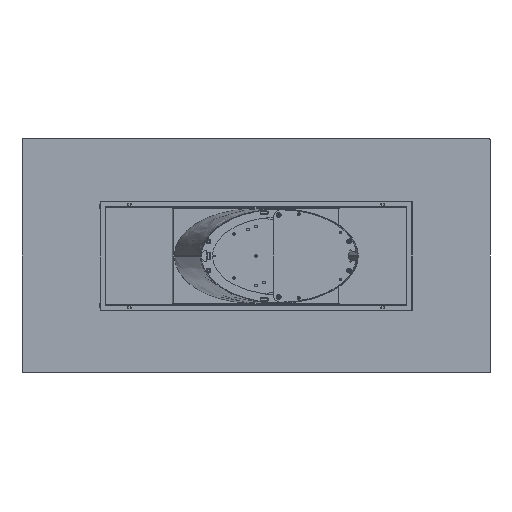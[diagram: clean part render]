
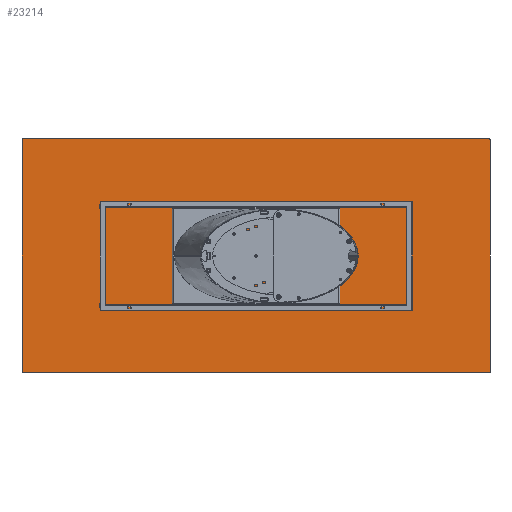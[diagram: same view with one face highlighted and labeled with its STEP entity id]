
A CAD part, front view. The second image highlights one B-rep face of the part: STEP entity #23214.
In plain terms, the highlighted planar face has unit normal (0, -1, 0).
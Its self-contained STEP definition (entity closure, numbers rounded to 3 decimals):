
#1226 = CIRCLE ( 'NONE', #3363, 5. ) ;
#1639 = VECTOR ( 'NONE', #15831, 1000. ) ;
#1807 = CARTESIAN_POINT ( 'NONE',  ( -1200., 0., -600. ) ) ;
#2964 = CARTESIAN_POINT ( 'NONE',  ( 1195., 0., -600. ) ) ;
#3357 = DIRECTION ( 'NONE',  ( 0., 0., 1. ) ) ;
#3363 = AXIS2_PLACEMENT_3D ( 'NONE', #26076, #15602, #3357 ) ;
#3834 = LINE ( 'NONE', #1807, #14030 ) ;
#4764 = AXIS2_PLACEMENT_3D ( 'NONE', #6789, #18618, #12461 ) ;
#5243 = EDGE_CURVE ( 'NONE', #12475, #10840, #1226, .T. ) ;
#5338 = EDGE_CURVE ( 'NONE', #7942, #24213, #19863, .T. ) ;
#5797 = CARTESIAN_POINT ( 'NONE',  ( -1200., 0., 595. ) ) ;
#6281 = CIRCLE ( 'NONE', #15315, 5. ) ;
#6320 = DIRECTION ( 'NONE',  ( 0., -1., 0. ) ) ;
#6489 = VERTEX_POINT ( 'NONE', #5797 ) ;
#6551 = DIRECTION ( 'NONE',  ( 0., -1., 0. ) ) ;
#6716 = DIRECTION ( 'NONE',  ( 0., -1., 0. ) ) ;
#6789 = CARTESIAN_POINT ( 'NONE',  ( 0., 0., 0. ) ) ;
#6825 = CARTESIAN_POINT ( 'NONE',  ( 1195., 0., -595. ) ) ;
#7220 = VERTEX_POINT ( 'NONE', #17041 ) ;
#7803 = CARTESIAN_POINT ( 'NONE',  ( 1195., 0., 595. ) ) ;
#7837 = CARTESIAN_POINT ( 'NONE',  ( -1200., 0., 600. ) ) ;
#7942 = VERTEX_POINT ( 'NONE', #18444 ) ;
#8362 = CIRCLE ( 'NONE', #23405, 5. ) ;
#9023 = ORIENTED_EDGE ( 'NONE', *, *, #16280, .T. ) ;
#9123 = DIRECTION ( 'NONE',  ( 0., 0., 1. ) ) ;
#9616 = VERTEX_POINT ( 'NONE', #2964 ) ;
#9649 = EDGE_LOOP ( 'NONE', ( #10434, #15046, #20340, #22735, #22756, #21528, #14287, #9023 ) ) ;
#10300 = AXIS2_PLACEMENT_3D ( 'NONE', #7803, #6320, #22339 ) ;
#10434 = ORIENTED_EDGE ( 'NONE', *, *, #5338, .F. ) ;
#10840 = VERTEX_POINT ( 'NONE', #15489 ) ;
#10847 = FACE_OUTER_BOUND ( 'NONE', #9649, .T. ) ;
#11176 = CIRCLE ( 'NONE', #10300, 5. ) ;
#12461 = DIRECTION ( 'NONE',  ( 0., 0., 1. ) ) ;
#12475 = VERTEX_POINT ( 'NONE', #17672 ) ;
#13428 = CARTESIAN_POINT ( 'NONE',  ( 1200., 0., -600. ) ) ;
#14030 = VECTOR ( 'NONE', #24546, 1000. ) ;
#14287 = ORIENTED_EDGE ( 'NONE', *, *, #16578, .F. ) ;
#14463 = PLANE ( 'NONE',  #4764 ) ;
#14471 = EDGE_CURVE ( 'NONE', #7220, #6489, #8362, .T. ) ;
#15046 = ORIENTED_EDGE ( 'NONE', *, *, #21480, .T. ) ;
#15315 = AXIS2_PLACEMENT_3D ( 'NONE', #6825, #6551, #9123 ) ;
#15489 = CARTESIAN_POINT ( 'NONE',  ( -1195., 0., -600. ) ) ;
#15602 = DIRECTION ( 'NONE',  ( 0., -1., 0. ) ) ;
#15831 = DIRECTION ( 'NONE',  ( 0., 0., -1. ) ) ;
#16280 = EDGE_CURVE ( 'NONE', #9616, #24213, #6281, .T. ) ;
#16578 = EDGE_CURVE ( 'NONE', #9616, #10840, #3834, .T. ) ;
#16797 = CARTESIAN_POINT ( 'NONE',  ( 1200., 0., -595. ) ) ;
#16957 = CARTESIAN_POINT ( 'NONE',  ( 1195., 0., 600. ) ) ;
#17041 = CARTESIAN_POINT ( 'NONE',  ( -1195., 0., 600. ) ) ;
#17406 = EDGE_CURVE ( 'NONE', #12475, #6489, #22478, .T. ) ;
#17672 = CARTESIAN_POINT ( 'NONE',  ( -1200., 0., -595. ) ) ;
#18444 = CARTESIAN_POINT ( 'NONE',  ( 1200., 0., 595. ) ) ;
#18618 = DIRECTION ( 'NONE',  ( 0., 1., 0. ) ) ;
#19637 = VECTOR ( 'NONE', #23992, 1000. ) ;
#19863 = LINE ( 'NONE', #13428, #1639 ) ;
#20062 = VECTOR ( 'NONE', #26512, 1000. ) ;
#20340 = ORIENTED_EDGE ( 'NONE', *, *, #23442, .F. ) ;
#21480 = EDGE_CURVE ( 'NONE', #7942, #23004, #11176, .T. ) ;
#21528 = ORIENTED_EDGE ( 'NONE', *, *, #5243, .T. ) ;
#22118 = LINE ( 'NONE', #7837, #19637 ) ;
#22339 = DIRECTION ( 'NONE',  ( 0., 0., 1. ) ) ;
#22478 = LINE ( 'NONE', #26605, #20062 ) ;
#22735 = ORIENTED_EDGE ( 'NONE', *, *, #14471, .T. ) ;
#22756 = ORIENTED_EDGE ( 'NONE', *, *, #17406, .F. ) ;
#22859 = DIRECTION ( 'NONE',  ( 0., 0., 1. ) ) ;
#23004 = VERTEX_POINT ( 'NONE', #16957 ) ;
#23214 = ADVANCED_FACE ( 'NONE', ( #10847 ), #14463, .F. ) ;
#23405 = AXIS2_PLACEMENT_3D ( 'NONE', #25143, #6716, #22859 ) ;
#23442 = EDGE_CURVE ( 'NONE', #7220, #23004, #22118, .T. ) ;
#23992 = DIRECTION ( 'NONE',  ( 1., 0., 0. ) ) ;
#24213 = VERTEX_POINT ( 'NONE', #16797 ) ;
#24546 = DIRECTION ( 'NONE',  ( -1., 0., 0. ) ) ;
#25143 = CARTESIAN_POINT ( 'NONE',  ( -1195., 0., 595. ) ) ;
#26076 = CARTESIAN_POINT ( 'NONE',  ( -1195., 0., -595. ) ) ;
#26512 = DIRECTION ( 'NONE',  ( 0., 0., 1. ) ) ;
#26605 = CARTESIAN_POINT ( 'NONE',  ( -1200., 0., -600. ) ) ;
